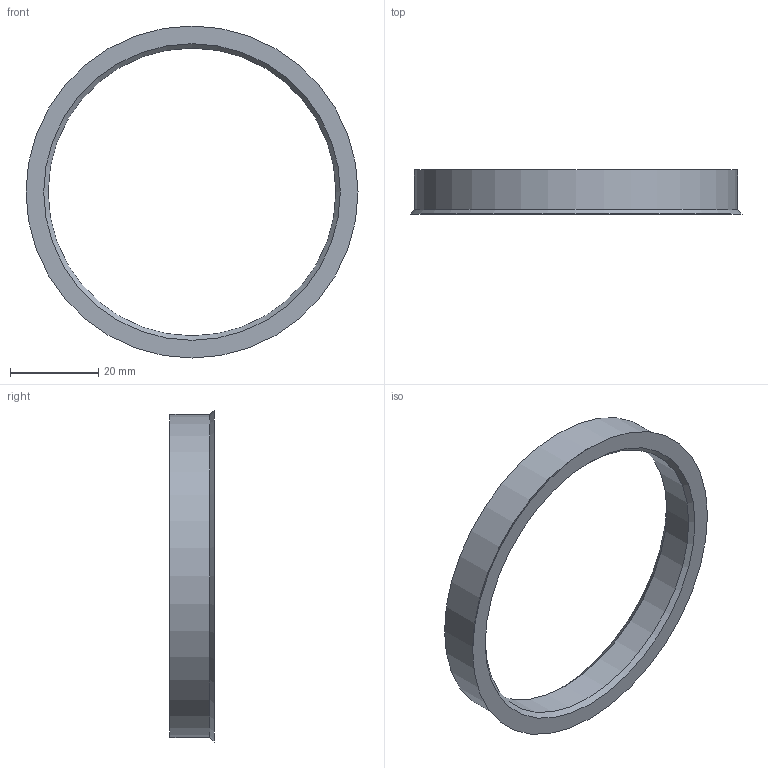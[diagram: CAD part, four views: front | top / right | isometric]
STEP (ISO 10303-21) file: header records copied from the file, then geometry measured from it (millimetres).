
FILE_DESCRIPTION(/* description */ (''),/* implementation_level */ '2;1');
FILE_NAME(/* name */ 'G:\CAD Library\Team Tasks\DIPP\11th Intake\Bradley Coles\Design Drafting\Random\Hub Rings\ipt\HubRing_73.1-65.1.stp',/* time_stamp */ '2025-07-22T13:46:09+08:00',/* author */ ('BCOLES'),/* organization */ (''),/* preprocessor_version */ 'ST-DEVELOPER v18.1',/* originating_system */ 'Autodesk Inventor 2022',/* authorisation */ '');
FILE_SCHEMA (('AUTOMOTIVE_DESIGN { 1 0 10303 214 3 1 1 }'));
Length unit declared in the file: millimetre
Products named in the file (1): HubRing_73.1-65.1
Bounding box: 75.1 x 10 x 75.1 mm (x, y, z)
Volume: 8278.5 mm3; surface area: 6057.8 mm2
Topology: 1 solids, 1 shells, 7 faces, 13 edges, 8 vertices
Faces by surface type: cone 3, cylinder 2, plane 2
Full cylindrical faces by diameter (mm): 65.1 x1, 73.1 x1
Entity records: 226 total; most frequent: DIRECTION 37, CARTESIAN_POINT 29, ORIENTED_EDGE 26, AXIS2_PLACEMENT_3D 16, EDGE_CURVE 13, EDGE_LOOP 9, CIRCLE 8, VERTEX_POINT 8
